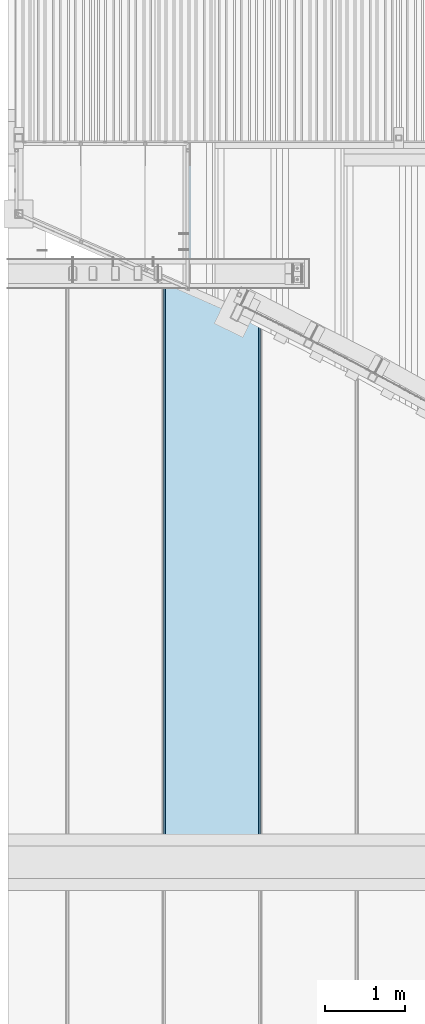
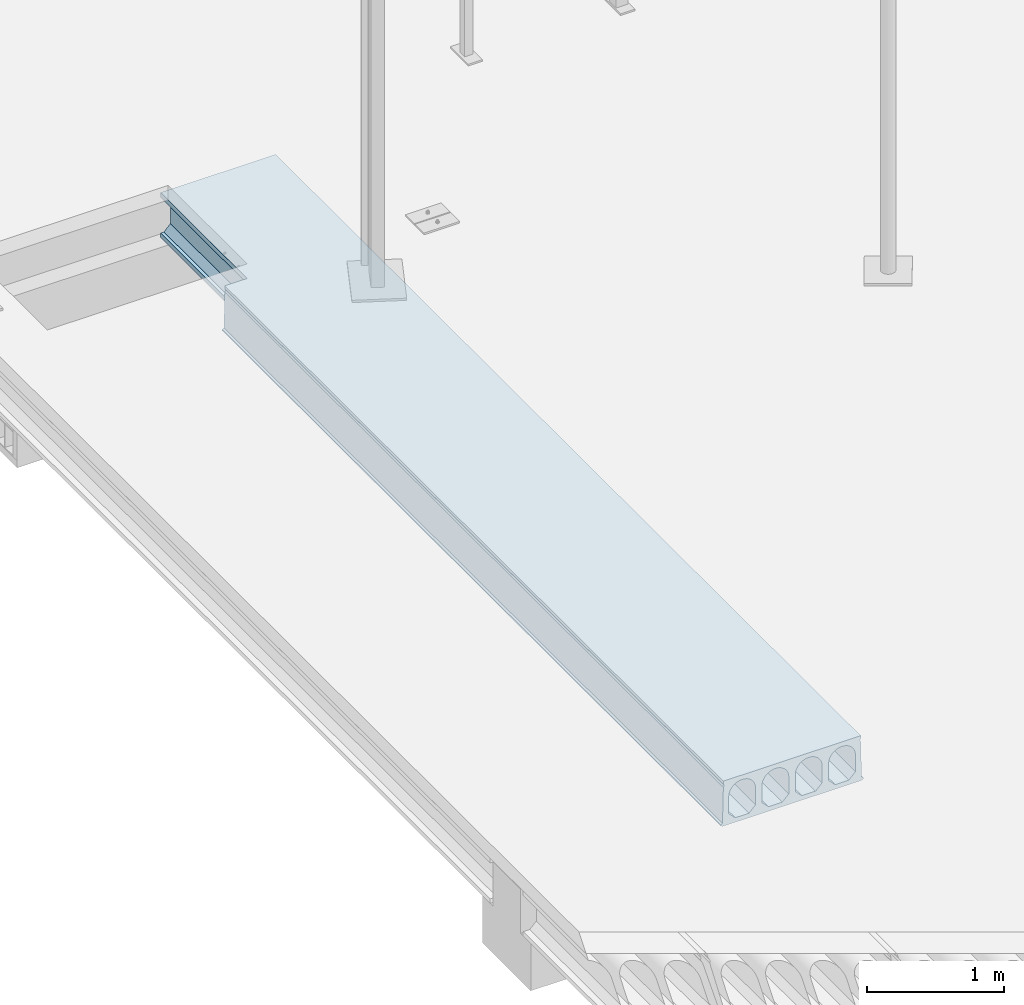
# One storey, part 54 of 98: 1 slab.
"""IFC2X3 building model written with IfcOpenShell, lengths in millimetres."""

from ifc_helpers import new_model, entity, si_unit, converted_unit, derived_unit, direction, frame, origin_with_axes, place, context, subcontext, project, spatial, faceted_brep, material, type_object, element, save


model = new_model("IFC2X3")

# Units and contexts
model_context = context("Model", 3, precision=0.01, world=frame((0.0, 4.29681676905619e-09, 0.0)), true_north=direction((4.01073788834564e-13, 1.0)))
plan_context = context("Plan", 3, precision=0.01, world=frame((0.0, 4.29681676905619e-09, 0.0)), true_north=direction((4.01073788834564e-13, 1.0)))
body_context = subcontext(model_context, "Body", "Model", "MODEL_VIEW")
ifc_project = project(units=[converted_unit("PLANEANGLEUNIT", "DEGREE", entity("IfcPositiveLengthMeasure", 0.0174532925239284), si_unit("PLANEANGLEUNIT", "RADIAN"), dimensions=[0, 0, 0, 0, 0, 0, 0]), si_unit("AREAUNIT", "SQUARE_METRE"), si_unit("LENGTHUNIT", "METRE", prefix="MILLI"), si_unit("MASSUNIT", "GRAM", prefix="KILO"), si_unit("POWERUNIT", "WATT"), si_unit("PRESSUREUNIT", "PASCAL"), si_unit("FORCEUNIT", "NEWTON", prefix="KILO"), si_unit("ELECTRICCURRENTUNIT", "AMPERE"), si_unit("THERMODYNAMICTEMPERATUREUNIT", "DEGREE_CELSIUS"), si_unit("TIMEUNIT", "SECOND"), si_unit("VOLUMEUNIT", "CUBIC_METRE"), derived_unit("LINEARVELOCITYUNIT", [(si_unit("LENGTHUNIT", "METRE"), 1), (si_unit("TIMEUNIT", "SECOND"), -1)]), derived_unit("VOLUMETRICFLOWRATEUNIT", [(si_unit("VOLUMEUNIT", "CUBIC_METRE"), 1), (si_unit("TIMEUNIT", "SECOND"), -1)]), derived_unit("THERMALTRANSMITTANCEUNIT", [(si_unit("POWERUNIT", "WATT"), 1), (si_unit("THERMODYNAMICTEMPERATUREUNIT", "KELVIN"), -1), (si_unit("AREAUNIT", "SQUARE_METRE"), -1)])], contexts=[model_context, plan_context])

# Site, building, storey
site_placement = place(None, frame((0.0, -4.29681676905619e-09, 0.0), z_axis=(0.0, 0.0, 1.0), x_axis=(1.0, 0.0, 0.0)))
site = spatial("IfcSite", under=ifc_project, at=site_placement, Name="Gardermoen", CompositionType="ELEMENT")
building_placement = place(site_placement, frame((0.0, 4.29681676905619e-09, 0.0), z_axis=(0.0, 0.0, 1.0), x_axis=(1.0, 0.0, 0.0)))
building = spatial("IfcBuilding", under=site, at=building_placement, Name="TS", CompositionType="ELEMENT")
storey_placement = place(building_placement, origin_with_axes())
storey = spatial("IfcBuildingStorey", under=building, at=storey_placement, Name="D", CompositionType="ELEMENT", Elevation=0.0)

# Slab
ifc_material = material(Name="CONCRETE/C45/55")
slab_type = type_object("IfcSlabType", Name="HD400", PredefinedType="NOTDEFINED")
slab_placement = place(storey_placement, frame((516399.999766, 405739.995625, 203600.0), z_axis=(0.0, 0.0, 1.0), x_axis=(0.0, 1.0, 0.0)))
element("IfcSlab", 1, at=slab_placement, inside=storey, type_object=slab_type, material=ifc_material, Name="HULLDEKKE", ObjectType="HD400", PredefinedType="FLOOR", context=body_context, shape_type="Brep", body=[
    faceted_brep([(0.0, -27.5, -105.0), (0.0, -82.5, -160.0), (8520.00875000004, -82.5, -160.0), (8520.00875000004, -27.5, -105.0), (0.0, -27.5, 47.5), (8520.00875000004, -27.5, 47.5), (0.0, -27.8842445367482, 56.7901763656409), (8520.00875000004, -27.8842445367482, 56.7901763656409), (0.0, -29.0343533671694, 66.0168914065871), (8520.00875000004, -29.0343533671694, 66.0168914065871), (0.0, -30.942470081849, 75.1171173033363), (8520.00875000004, -30.942470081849, 75.1171173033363), (0.0, -33.5955603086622, 84.028690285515), (8520.00875000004, -33.5955603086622, 84.028690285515), (0.0, -36.9755007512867, 92.6907352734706), (8520.00875000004, -36.9755007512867, 92.6907352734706), (0.0, -41.0592029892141, 101.044081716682), (8520.00875000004, -41.0592029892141, 101.044081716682), (0.0, -45.8187711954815, 109.031667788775), (8520.00875000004, -45.8187711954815, 109.031667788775), (0.0, -51.2216926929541, 116.598930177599), (8520.00875000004, -51.2216926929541, 116.598930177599), (0.0, -57.2310600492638, 123.694176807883), (8520.00875000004, -57.2310600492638, 123.694176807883), (0.0, -63.8058231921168, 130.268939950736), (8520.00875000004, -63.8058231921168, 130.268939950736), (0.0, -70.9010698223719, 136.278307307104), (8520.00875000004, -70.9010698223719, 136.278307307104), (0.0, -78.4683322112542, 141.681228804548), (8520.00875000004, -78.4683322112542, 141.681228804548), (0.0, -86.4559182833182, 146.440797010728), (8520.00875000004, -86.4559182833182, 146.440797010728), (0.0, -94.8092647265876, 150.524499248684), (8520.00875000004, -94.8092647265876, 150.524499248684), (0.0, -103.471309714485, 153.904439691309), (8520.00875000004, -103.471309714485, 153.904439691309), (0.0, -112.382882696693, 156.55752991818), (8520.00875000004, -112.382882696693, 156.55752991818), (0.0, -121.483108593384, 158.465646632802), (8520.00875000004, -121.483108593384, 158.465646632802), (0.0, -130.709823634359, 159.615755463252), (8520.00875000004, -130.709823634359, 159.615755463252), (0.0, -140.0, 160.0), (8520.00875000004, -140.0, 160.0), (0.0, -149.290176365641, 159.615755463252), (8520.00875000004, -149.290176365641, 159.615755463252), (0.0, -158.516891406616, 158.465646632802), (8520.00875000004, -158.516891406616, 158.465646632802), (0.0, -167.617117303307, 156.55752991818), (8520.00875000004, -167.617117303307, 156.55752991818), (0.0, -176.528690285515, 153.904439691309), (8520.00875000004, -176.528690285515, 153.904439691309), (0.0, -185.190735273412, 150.524499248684), (8520.00875000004, -185.190735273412, 150.524499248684), (0.0, -193.544081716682, 146.440797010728), (8520.00875000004, -193.544081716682, 146.440797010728), (0.0, -201.531667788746, 141.681228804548), (8520.00875000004, -201.531667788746, 141.681228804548), (0.0, -209.098930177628, 136.278307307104), (8520.00875000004, -209.098930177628, 136.278307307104), (0.0, -216.194176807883, 130.268939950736), (8520.00875000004, -216.194176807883, 130.268939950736), (0.0, -222.768939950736, 123.694176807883), (8520.00875000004, -222.768939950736, 123.694176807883), (0.0, -228.778307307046, 116.598930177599), (8520.00875000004, -228.778307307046, 116.598930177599), (0.0, -234.181228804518, 109.031667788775), (8520.00875000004, -234.181228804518, 109.031667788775), (0.0, -238.940797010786, 101.044081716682), (8520.00875000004, -238.940797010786, 101.044081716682), (0.0, -243.024499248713, 92.6907352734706), (8520.00875000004, -243.024499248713, 92.6907352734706), (0.0, -246.404439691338, 84.028690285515), (8520.00875000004, -246.404439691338, 84.028690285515), (0.0, -249.057529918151, 75.1171173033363), (8520.00875000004, -249.057529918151, 75.1171173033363), (0.0, -250.965646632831, 66.0168914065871), (8520.00875000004, -250.965646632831, 66.0168914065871), (0.0, -252.115755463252, 56.7901763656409), (8520.00875000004, -252.115755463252, 56.7901763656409), (0.0, -252.5, 47.5), (8520.00875000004, -252.5, 47.5), (0.0, -252.5, -105.0), (8520.00875000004, -252.5, -105.0), (0.0, -197.5, -160.0), (8520.00875000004, -197.5, -160.0), (0.0, 252.5, -105.0), (0.0, 197.5, -160.0), (8520.00875000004, 197.5, -160.0), (8520.00875000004, 252.5, -105.0), (0.0, 252.5, 47.5), (8520.00875000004, 252.5, 47.5), (0.0, 252.115755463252, 56.7901763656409), (8520.00875000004, 252.115755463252, 56.7901763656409), (0.0, 250.965646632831, 66.0168914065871), (8520.00875000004, 250.965646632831, 66.0168914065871), (0.0, 249.057529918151, 75.1171173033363), (8520.00875000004, 249.057529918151, 75.1171173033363), (0.0, 246.404439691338, 84.028690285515), (8520.00875000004, 246.404439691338, 84.028690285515), (0.0, 243.024499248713, 92.6907352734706), (8520.00875000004, 243.024499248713, 92.6907352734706), (0.0, 238.940797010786, 101.044081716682), (8520.00875000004, 238.940797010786, 101.044081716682), (0.0, 234.181228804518, 109.031667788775), (8520.00875000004, 234.181228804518, 109.031667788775), (0.0, 228.778307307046, 116.598930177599), (8520.00875000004, 228.778307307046, 116.598930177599), (0.0, 222.768939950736, 123.694176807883), (8520.00875000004, 222.768939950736, 123.694176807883), (0.0, 216.194176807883, 130.268939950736), (8520.00875000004, 216.194176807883, 130.268939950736), (0.0, 209.098930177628, 136.278307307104), (8520.00875000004, 209.098930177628, 136.278307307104), (0.0, 201.531667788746, 141.681228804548), (8520.00875000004, 201.531667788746, 141.681228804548), (0.0, 193.544081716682, 146.440797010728), (8520.00875000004, 193.544081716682, 146.440797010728), (0.0, 185.190735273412, 150.524499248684), (8520.00875000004, 185.190735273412, 150.524499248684), (0.0, 176.528690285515, 153.904439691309), (8520.00875000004, 176.528690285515, 153.904439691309), (0.0, 167.617117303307, 156.55752991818), (8520.00875000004, 167.617117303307, 156.55752991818), (0.0, 158.516891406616, 158.465646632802), (8520.00875000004, 158.516891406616, 158.465646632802), (0.0, 149.290176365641, 159.615755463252), (8520.00875000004, 149.290176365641, 159.615755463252), (0.0, 140.0, 160.0), (8520.00875000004, 140.0, 160.0), (0.0, 130.709823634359, 159.615755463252), (8520.00875000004, 130.709823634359, 159.615755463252), (0.0, 121.483108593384, 158.465646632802), (8520.00875000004, 121.483108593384, 158.465646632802), (0.0, 112.382882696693, 156.55752991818), (8520.00875000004, 112.382882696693, 156.55752991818), (0.0, 103.471309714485, 153.904439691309), (8520.00875000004, 103.471309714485, 153.904439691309), (0.0, 94.8092647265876, 150.524499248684), (8520.00875000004, 94.8092647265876, 150.524499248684), (0.0, 86.4559182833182, 146.440797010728), (8520.00875000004, 86.4559182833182, 146.440797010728), (0.0, 78.4683322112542, 141.681228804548), (8520.00875000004, 78.4683322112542, 141.681228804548), (0.0, 70.9010698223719, 136.278307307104), (8520.00875000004, 70.9010698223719, 136.278307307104), (0.0, 63.8058231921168, 130.268939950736), (8520.00875000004, 63.8058231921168, 130.268939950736), (0.0, 57.2310600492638, 123.694176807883), (8520.00875000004, 57.2310600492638, 123.694176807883), (0.0, 51.2216926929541, 116.598930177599), (8520.00875000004, 51.2216926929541, 116.598930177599), (0.0, 45.8187711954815, 109.031667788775), (8520.00875000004, 45.8187711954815, 109.031667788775), (0.0, 41.0592029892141, 101.044081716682), (8520.00875000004, 41.0592029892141, 101.044081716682), (0.0, 36.9755007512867, 92.6907352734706), (8520.00875000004, 36.9755007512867, 92.6907352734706), (0.0, 33.5955603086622, 84.028690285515), (8520.00875000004, 33.5955603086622, 84.028690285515), (0.0, 30.942470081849, 75.1171173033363), (8520.00875000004, 30.942470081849, 75.1171173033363), (0.0, 29.0343533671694, 66.0168914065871), (8520.00875000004, 29.0343533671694, 66.0168914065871), (0.0, 27.8842445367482, 56.7901763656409), (8520.00875000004, 27.8842445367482, 56.7901763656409), (0.0, 27.5, 47.5), (8520.00875000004, 27.5, 47.5), (0.0, 27.5, -105.0), (8520.00875000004, 27.5, -105.0), (0.0, 82.5, -160.0), (8520.00875000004, 82.5, -160.0), (0.0, 532.5, -105.0), (0.0, 477.5, -160.0), (7260.006206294, 477.5, -160.0), (7260.00506270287, 532.5, -105.0), (7260.00506270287, 532.5, 47.5), (0.0, 532.5, 47.5), (7260.00506270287, 532.5, -80.0), (0.0, 532.115755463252, 56.7901763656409), (7260.00507069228, 532.115755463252, 56.7901763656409), (0.0, 530.965646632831, 66.0168914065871), (7260.00509460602, 530.965646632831, 66.0168914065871), (0.0, 529.057529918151, 75.1171173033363), (7260.00513428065, 529.057529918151, 75.1171173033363), (0.0, 526.404439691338, 84.028690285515), (7260.00518944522, 526.404439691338, 84.028690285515), (0.0, 523.024499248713, 92.6907352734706), (7260.00525972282, 523.024499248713, 92.6907352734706), (0.0, 518.940797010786, 101.044081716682), (7260.00534463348, 518.940797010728, 101.044081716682), (0.0, 514.181228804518, 109.031667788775), (7260.00544359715, 514.181228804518, 109.031667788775), (0.0, 508.778307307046, 116.598930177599), (7260.00555593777, 508.778307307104, 116.598930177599), (0.0, 502.768939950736, 123.694176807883), (7260.0056808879, 502.768939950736, 123.694176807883), (0.0, 496.194176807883, 130.268939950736), (7260.00581759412, 496.194176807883, 130.268939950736), (0.0, 489.098930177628, 136.278307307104), (7260.00596512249, 489.09893017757, 136.278307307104), (0.0, 481.531667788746, 141.681228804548), (7260.0061224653, 481.531667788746, 141.681228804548), (0.0, 473.544081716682, 146.440797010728), (7260.00628854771, 473.544081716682, 146.440797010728), (0.0, 465.190735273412, 150.524499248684), (7260.00646223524, 465.190735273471, 150.524499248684), (0.0, 456.528690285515, 153.904439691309), (7260.00664234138, 456.528690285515, 153.904439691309), (0.0, 447.617117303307, 156.55752991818), (7260.00682763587, 447.617117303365, 156.55752991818), (0.0, 438.516891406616, 158.465646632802), (7260.00701685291, 438.516891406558, 158.465646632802), (0.0, 429.290176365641, 159.615755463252), (7260.00720869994, 429.290176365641, 159.615755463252), (0.0, 420.0, 160.0), (7260.00740186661, 420.0, 160.0), (0.0, 410.709823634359, 159.615755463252), (7260.00759503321, 410.709823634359, 159.615755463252), (0.0, 401.483108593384, 158.465646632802), (7260.00778688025, 401.483108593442, 158.465646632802), (0.0, 392.382882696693, 156.55752991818), (7260.00797609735, 392.382882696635, 156.55752991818), (8520.00875000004, 383.471309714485, 153.904439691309), (0.0, 383.471309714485, 153.904439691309), (7260.00802564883, 389.999746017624, 155.848039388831), (8410.00409615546, 389.999898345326, 155.84808473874), (8520.00875000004, 389.99989846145, 155.848084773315), (0.0, 374.809264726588, 150.524499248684), (8520.00875000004, 374.809264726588, 150.524499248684), (0.0, 366.455918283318, 146.440797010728), (8520.00875000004, 366.455918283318, 146.440797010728), (0.0, 358.468332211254, 141.681228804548), (8520.00875000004, 358.468332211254, 141.681228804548), (0.0, 350.901069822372, 136.278307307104), (8520.00875000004, 350.901069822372, 136.278307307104), (0.0, 343.805823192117, 130.268939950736), (8520.00875000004, 343.805823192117, 130.268939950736), (0.0, 337.231060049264, 123.694176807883), (8520.00875000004, 337.231060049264, 123.694176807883), (0.0, 331.221692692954, 116.598930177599), (8520.00875000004, 331.221692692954, 116.598930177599), (0.0, 325.818771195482, 109.031667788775), (8520.00875000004, 325.818771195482, 109.031667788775), (0.0, 321.059202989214, 101.044081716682), (8520.00875000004, 321.059202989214, 101.044081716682), (0.0, 316.975500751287, 92.6907352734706), (8520.00875000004, 316.975500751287, 92.6907352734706), (0.0, 313.595560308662, 84.028690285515), (8520.00875000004, 313.595560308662, 84.028690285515), (0.0, 310.942470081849, 75.1171173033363), (8520.00875000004, 310.942470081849, 75.1171173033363), (0.0, 309.034353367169, 66.0168914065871), (8520.00875000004, 309.034353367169, 66.0168914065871), (0.0, 307.884244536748, 56.7901763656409), (8520.00875000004, 307.884244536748, 56.7901763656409), (0.0, 307.5, 47.5), (8520.00875000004, 307.5, 47.5), (0.0, 307.5, -105.0), (8520.00875000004, 307.5, -105.0), (0.0, 362.5, -160.0), (8520.00875000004, 362.5, -160.0), (0.0, -577.5, 200.0), (0.0, -577.5, 175.0), (8520.00875000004, -577.5, 175.0), (8520.00875000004, -577.5, 200.0), (0.0, -570.0, 160.0), (8520.00875000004, -570.0, 160.0), (0.0, -577.5, 145.0), (8520.00875000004, -577.5, 145.0), (0.0, -585.0, -170.0), (8520.00875000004, -585.0, -170.0), (0.0, -600.0, -180.0), (8520.00875000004, -600.0, -180.0), (0.0, -600.0, -190.0), (8520.00875000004, -600.0, -190.0), (0.0, -583.380004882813, -200.0), (8520.00875000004, -583.380004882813, -200.0), (0.0, 570.0, 160.0), (0.0, 577.5, 175.0), (7260.00412703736, 577.5, 175.0), (7260.00428298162, 570.0, 160.0), (0.0, 577.5, 145.0), (7260.00412703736, 577.5, 145.0), (7260.00397109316, 585.0, -170.0), (0.0, 585.0, -170.0), (7260.00401564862, 582.857142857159, -80.0), (0.0, 600.0, -180.0), (7260.00365920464, 600.0, -180.0), (0.0, 600.0, -190.0), (7260.00365920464, 600.0, -190.0), (0.0, 583.380004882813, -200.0), (7260.004004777, 583.380004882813, -200.0), (7260.00802564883, 389.999746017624, -200.0), (8410.00409615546, 389.999898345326, -200.0), (8520.00875000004, 389.99989846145, -200.0), (8410.00409615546, 389.999898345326, -160.0), (7260.00802564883, 389.999746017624, -160.0), (8520.00875000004, 389.99989846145, -160.0), (0.0, 577.5, 200.0), (0.0, -307.5, -105.0), (0.0, -307.5, 47.5), (0.0, -307.884244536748, 56.7901763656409), (0.0, -309.034353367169, 66.0168914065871), (0.0, -310.942470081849, 75.1171173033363), (0.0, -313.595560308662, 84.028690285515), (0.0, -316.975500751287, 92.6907352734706), (0.0, -321.059202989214, 101.044081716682), (0.0, -325.818771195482, 109.031667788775), (0.0, -331.221692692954, 116.598930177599), (0.0, -337.231060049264, 123.694176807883), (0.0, -343.805823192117, 130.268939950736), (0.0, -350.901069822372, 136.278307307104), (0.0, -358.468332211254, 141.681228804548), (0.0, -366.455918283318, 146.440797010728), (0.0, -374.809264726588, 150.524499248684), (0.0, -383.471309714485, 153.904439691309), (0.0, -392.382882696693, 156.55752991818), (0.0, -401.483108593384, 158.465646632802), (0.0, -410.709823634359, 159.615755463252), (0.0, -420.0, 160.0), (0.0, -429.290176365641, 159.615755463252), (0.0, -438.516891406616, 158.465646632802), (0.0, -447.617117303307, 156.55752991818), (0.0, -456.528690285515, 153.904439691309), (0.0, -465.190735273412, 150.524499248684), (0.0, -473.544081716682, 146.440797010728), (0.0, -481.531667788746, 141.681228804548), (0.0, -489.098930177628, 136.278307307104), (0.0, -496.194176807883, 130.268939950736), (0.0, -502.768939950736, 123.694176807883), (0.0, -508.778307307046, 116.598930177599), (0.0, -514.181228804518, 109.031667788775), (0.0, -518.940797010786, 101.044081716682), (0.0, -523.024499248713, 92.6907352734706), (0.0, -526.404439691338, 84.028690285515), (0.0, -529.057529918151, 75.1171173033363), (0.0, -530.965646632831, 66.0168914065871), (0.0, -532.115755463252, 56.7901763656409), (0.0, -532.5, 47.5), (0.0, -532.5, -105.0), (0.0, -477.5, -160.0), (0.0, -362.5, -160.0), (8520.00875000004, -362.5, -160.0), (8520.00875000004, -307.5, -105.0), (8520.00875000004, -307.5, 47.5), (8520.00875000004, -307.884244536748, 56.7901763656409), (8520.00875000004, -309.034353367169, 66.0168914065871), (8520.00875000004, -310.942470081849, 75.1171173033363), (8520.00875000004, -313.595560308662, 84.028690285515), (8520.00875000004, -316.975500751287, 92.6907352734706), (8520.00875000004, -321.059202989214, 101.044081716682), (8520.00875000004, -325.818771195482, 109.031667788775), (8520.00875000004, -331.221692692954, 116.598930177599), (8520.00875000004, -337.231060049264, 123.694176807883), (8520.00875000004, -343.805823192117, 130.268939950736), (8520.00875000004, -350.901069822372, 136.278307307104), (8520.00875000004, -358.468332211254, 141.681228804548), (8520.00875000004, -366.455918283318, 146.440797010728), (8520.00875000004, -374.809264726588, 150.524499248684), (8520.00875000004, -383.471309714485, 153.904439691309), (8520.00875000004, -392.382882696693, 156.55752991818), (8520.00875000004, -401.483108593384, 158.465646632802), (8520.00875000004, -410.709823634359, 159.615755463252), (8520.00875000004, -420.0, 160.0), (8520.00875000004, -429.290176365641, 159.615755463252), (8520.00875000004, -438.516891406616, 158.465646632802), (8520.00875000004, -447.617117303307, 156.55752991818), (8520.00875000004, -456.528690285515, 153.904439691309), (8520.00875000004, -465.190735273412, 150.524499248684), (8520.00875000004, -473.544081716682, 146.440797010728), (8520.00875000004, -481.531667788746, 141.681228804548), (8520.00875000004, -489.098930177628, 136.278307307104), (8520.00875000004, -496.194176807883, 130.268939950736), (8520.00875000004, -502.768939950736, 123.694176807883), (8520.00875000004, -508.778307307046, 116.598930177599), (8520.00875000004, -514.181228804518, 109.031667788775), (8520.00875000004, -518.940797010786, 101.044081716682), (8520.00875000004, -523.024499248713, 92.6907352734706), (8520.00875000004, -526.404439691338, 84.028690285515), (8520.00875000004, -529.057529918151, 75.1171173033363), (8520.00875000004, -530.965646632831, 66.0168914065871), (8520.00875000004, -532.115755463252, 56.7901763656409), (8520.00875000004, -532.5, 47.5), (8520.00875000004, -532.5, -105.0), (8520.00875000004, -477.5, -160.0), (8520.00875000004, 389.99989846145, 200.0), (7260.00802564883, 389.999746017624, 200.0), (7260.00412703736, 577.5, 200.0), (8410.00409615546, 389.999898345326, 200.0)], [[[0, 1, 2, 3]], [[4, 0, 3, 5]], [[6, 4, 5, 7]], [[8, 6, 7, 9]], [[10, 8, 9, 11]], [[12, 10, 11, 13]], [[14, 12, 13, 15]], [[16, 14, 15, 17]], [[18, 16, 17, 19]], [[20, 18, 19, 21]], [[22, 20, 21, 23]], [[24, 22, 23, 25]], [[26, 24, 25, 27]], [[28, 26, 27, 29]], [[30, 28, 29, 31]], [[32, 30, 31, 33]], [[34, 32, 33, 35]], [[36, 34, 35, 37]], [[38, 36, 37, 39]], [[40, 38, 39, 41]], [[42, 40, 41, 43]], [[44, 42, 43, 45]], [[46, 44, 45, 47]], [[48, 46, 47, 49]], [[50, 48, 49, 51]], [[52, 50, 51, 53]], [[54, 52, 53, 55]], [[56, 54, 55, 57]], [[58, 56, 57, 59]], [[60, 58, 59, 61]], [[62, 60, 61, 63]], [[64, 62, 63, 65]], [[66, 64, 65, 67]], [[68, 66, 67, 69]], [[70, 68, 69, 71]], [[72, 70, 71, 73]], [[74, 72, 73, 75]], [[76, 74, 75, 77]], [[78, 76, 77, 79]], [[80, 78, 79, 81]], [[82, 80, 81, 83]], [[84, 82, 83, 85]], [[1, 84, 85, 2]], [[86, 87, 88, 89]], [[90, 86, 89, 91]], [[92, 90, 91, 93]], [[94, 92, 93, 95]], [[96, 94, 95, 97]], [[98, 96, 97, 99]], [[100, 98, 99, 101]], [[102, 100, 101, 103]], [[104, 102, 103, 105]], [[106, 104, 105, 107]], [[108, 106, 107, 109]], [[110, 108, 109, 111]], [[112, 110, 111, 113]], [[114, 112, 113, 115]], [[116, 114, 115, 117]], [[118, 116, 117, 119]], [[120, 118, 119, 121]], [[122, 120, 121, 123]], [[124, 122, 123, 125]], [[126, 124, 125, 127]], [[128, 126, 127, 129]], [[130, 128, 129, 131]], [[132, 130, 131, 133]], [[134, 132, 133, 135]], [[136, 134, 135, 137]], [[138, 136, 137, 139]], [[140, 138, 139, 141]], [[142, 140, 141, 143]], [[144, 142, 143, 145]], [[146, 144, 145, 147]], [[148, 146, 147, 149]], [[150, 148, 149, 151]], [[152, 150, 151, 153]], [[154, 152, 153, 155]], [[156, 154, 155, 157]], [[158, 156, 157, 159]], [[160, 158, 159, 161]], [[162, 160, 161, 163]], [[164, 162, 163, 165]], [[166, 164, 165, 167]], [[168, 166, 167, 169]], [[170, 168, 169, 171]], [[87, 170, 171, 88]], [[172, 173, 174, 175]], [[176, 177, 172, 175, 178]], [[179, 177, 176, 180]], [[181, 179, 180, 182]], [[183, 181, 182, 184]], [[185, 183, 184, 186]], [[187, 185, 186, 188]], [[189, 187, 188, 190]], [[191, 189, 190, 192]], [[193, 191, 192, 194]], [[195, 193, 194, 196]], [[197, 195, 196, 198]], [[199, 197, 198, 200]], [[201, 199, 200, 202]], [[203, 201, 202, 204]], [[205, 203, 204, 206]], [[207, 205, 206, 208]], [[209, 207, 208, 210]], [[211, 209, 210, 212]], [[213, 211, 212, 214]], [[215, 213, 214, 216]], [[217, 215, 216, 218]], [[219, 217, 218, 220]], [[221, 219, 220, 222]], [[223, 224, 221, 222, 225, 226, 227]], [[228, 224, 223, 229]], [[230, 228, 229, 231]], [[232, 230, 231, 233]], [[234, 232, 233, 235]], [[236, 234, 235, 237]], [[238, 236, 237, 239]], [[240, 238, 239, 241]], [[242, 240, 241, 243]], [[244, 242, 243, 245]], [[246, 244, 245, 247]], [[248, 246, 247, 249]], [[250, 248, 249, 251]], [[252, 250, 251, 253]], [[254, 252, 253, 255]], [[256, 254, 255, 257]], [[258, 256, 257, 259]], [[260, 258, 259, 261]], [[262, 263, 264, 265]], [[263, 266, 267, 264]], [[266, 268, 269, 267]], [[268, 270, 271, 269]], [[270, 272, 273, 271]], [[272, 274, 275, 273]], [[274, 276, 277, 275]], [[278, 279, 280, 281]], [[282, 278, 281, 283]], [[284, 285, 282, 283, 286]], [[287, 285, 284, 288]], [[289, 287, 288, 290]], [[291, 289, 290, 292]], [[277, 276, 291, 292, 293, 294, 295]], [[296, 294, 293, 297]], [[298, 295, 294, 296]], [[297, 174, 173, 260, 261, 298, 296]], [[291, 276, 274, 272, 270, 268, 266, 263, 262, 299, 279, 278, 282, 285, 287, 289], [172, 177, 179, 181, 183, 185, 187, 189, 191, 193, 195, 197, 199, 201, 203, 205, 207, 209, 211, 213, 215, 217, 219, 221, 224, 228, 230, 232, 234, 236, 238, 240, 242, 244, 246, 248, 250, 252, 254, 256, 258, 260, 173], [86, 90, 92, 94, 96, 98, 100, 102, 104, 106, 108, 110, 112, 114, 116, 118, 120, 122, 124, 126, 128, 130, 132, 134, 136, 138, 140, 142, 144, 146, 148, 150, 152, 154, 156, 158, 160, 162, 164, 166, 168, 170, 87], [0, 4, 6, 8, 10, 12, 14, 16, 18, 20, 22, 24, 26, 28, 30, 32, 34, 36, 38, 40, 42, 44, 46, 48, 50, 52, 54, 56, 58, 60, 62, 64, 66, 68, 70, 72, 74, 76, 78, 80, 82, 84, 1], [300, 301, 302, 303, 304, 305, 306, 307, 308, 309, 310, 311, 312, 313, 314, 315, 316, 317, 318, 319, 320, 321, 322, 323, 324, 325, 326, 327, 328, 329, 330, 331, 332, 333, 334, 335, 336, 337, 338, 339, 340, 341, 342]], [[300, 342, 343, 344]], [[301, 300, 344, 345]], [[302, 301, 345, 346]], [[303, 302, 346, 347]], [[304, 303, 347, 348]], [[305, 304, 348, 349]], [[306, 305, 349, 350]], [[307, 306, 350, 351]], [[308, 307, 351, 352]], [[309, 308, 352, 353]], [[310, 309, 353, 354]], [[311, 310, 354, 355]], [[312, 311, 355, 356]], [[313, 312, 356, 357]], [[314, 313, 357, 358]], [[315, 314, 358, 359]], [[316, 315, 359, 360]], [[317, 316, 360, 361]], [[318, 317, 361, 362]], [[319, 318, 362, 363]], [[320, 319, 363, 364]], [[321, 320, 364, 365]], [[322, 321, 365, 366]], [[323, 322, 366, 367]], [[324, 323, 367, 368]], [[325, 324, 368, 369]], [[326, 325, 369, 370]], [[327, 326, 370, 371]], [[328, 327, 371, 372]], [[329, 328, 372, 373]], [[330, 329, 373, 374]], [[331, 330, 374, 375]], [[332, 331, 375, 376]], [[333, 332, 376, 377]], [[334, 333, 377, 378]], [[335, 334, 378, 379]], [[336, 335, 379, 380]], [[337, 336, 380, 381]], [[338, 337, 381, 382]], [[339, 338, 382, 383]], [[340, 339, 383, 384]], [[341, 340, 384, 385]], [[342, 341, 385, 343]], [[265, 264, 267, 269, 271, 273, 275, 277, 295, 298, 261, 259, 257, 255, 253, 251, 249, 247, 245, 243, 241, 239, 237, 235, 233, 231, 229, 223, 227, 386], [384, 383, 382, 381, 380, 379, 378, 377, 376, 375, 374, 373, 372, 371, 370, 369, 368, 367, 366, 365, 364, 363, 362, 361, 360, 359, 358, 357, 356, 355, 354, 353, 352, 351, 350, 349, 348, 347, 346, 345, 344, 343, 385], [83, 81, 79, 77, 75, 73, 71, 69, 67, 65, 63, 61, 59, 57, 55, 53, 51, 49, 47, 45, 43, 41, 39, 37, 35, 33, 31, 29, 27, 25, 23, 21, 19, 17, 15, 13, 11, 9, 7, 5, 3, 2, 85], [169, 167, 165, 163, 161, 159, 157, 155, 153, 151, 149, 147, 145, 143, 141, 139, 137, 135, 133, 131, 129, 127, 125, 123, 121, 119, 117, 115, 113, 111, 109, 107, 105, 103, 101, 99, 97, 95, 93, 91, 89, 88, 171]], [[387, 388, 299, 262, 265, 386, 389]], [[279, 299, 388, 280]], [[387, 225, 222, 220, 218, 216, 214, 212, 210, 208, 206, 204, 202, 200, 198, 196, 194, 192, 190, 188, 186, 184, 182, 180, 176, 178, 175, 174, 297, 293, 292, 290, 288, 284, 286, 283, 281, 280, 388]], [[389, 226, 225, 387]], [[386, 227, 226, 389]]]),
])

save(model, "model.ifc")
